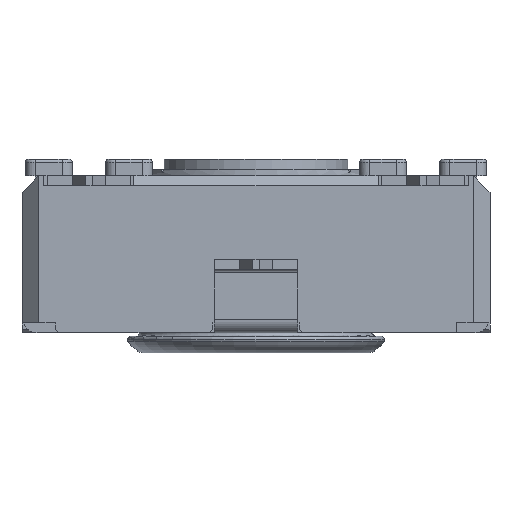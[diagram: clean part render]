
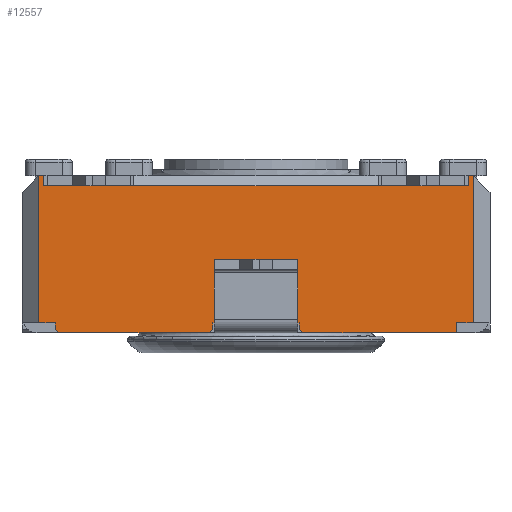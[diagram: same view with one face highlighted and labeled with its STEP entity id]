
A CAD part, front view. The second image highlights one B-rep face of the part: STEP entity #12557.
In plain terms, the highlighted planar face has unit normal (0, -1, 0).
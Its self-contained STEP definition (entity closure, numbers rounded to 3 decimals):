
#649=FACE_OUTER_BOUND('',#1319,.T.);
#1319=EDGE_LOOP('',(#8355,#8356,#8357,#8358,#8359,#8360,#8361,#8362,#8363,
#8364,#8365,#8366,#8367,#8368,#8369,#8370,#8371,#8372,#8373,#8374,#8375,
#8376,#8377,#8378,#8379,#8380,#8381));
#2007=LINE('',#17866,#3497);
#2020=LINE('',#17900,#3510);
#2025=LINE('',#17910,#3515);
#2103=LINE('',#18069,#3593);
#2128=LINE('',#18120,#3618);
#2154=LINE('',#18184,#3644);
#2155=LINE('',#18186,#3645);
#2156=LINE('',#18188,#3646);
#2157=LINE('',#18189,#3647);
#2158=LINE('',#18191,#3648);
#2159=LINE('',#18193,#3649);
#2160=LINE('',#18195,#3650);
#2161=LINE('',#18197,#3651);
#2162=LINE('',#18198,#3652);
#2163=LINE('',#18200,#3653);
#2164=LINE('',#18202,#3654);
#2165=LINE('',#18204,#3655);
#2166=LINE('',#18206,#3656);
#2167=LINE('',#18208,#3657);
#2168=LINE('',#18210,#3658);
#2169=LINE('',#18212,#3659);
#2170=LINE('',#18214,#3660);
#2171=LINE('',#18216,#3661);
#2172=LINE('',#18217,#3662);
#2173=LINE('',#18219,#3663);
#2174=LINE('',#18221,#3664);
#2175=LINE('',#18222,#3665);
#3497=VECTOR('',#14337,10.);
#3510=VECTOR('',#14376,10.);
#3515=VECTOR('',#14381,10.);
#3593=VECTOR('',#14483,10.);
#3618=VECTOR('',#14524,10.);
#3644=VECTOR('',#14572,10.);
#3645=VECTOR('',#14573,10.);
#3646=VECTOR('',#14574,10.);
#3647=VECTOR('',#14575,10.);
#3648=VECTOR('',#14576,10.);
#3649=VECTOR('',#14577,10.);
#3650=VECTOR('',#14578,10.);
#3651=VECTOR('',#14579,10.);
#3652=VECTOR('',#14580,10.);
#3653=VECTOR('',#14581,10.);
#3654=VECTOR('',#14582,10.);
#3655=VECTOR('',#14583,10.);
#3656=VECTOR('',#14584,10.);
#3657=VECTOR('',#14585,10.);
#3658=VECTOR('',#14586,10.);
#3659=VECTOR('',#14587,10.);
#3660=VECTOR('',#14588,10.);
#3661=VECTOR('',#14589,10.);
#3662=VECTOR('',#14590,10.);
#3663=VECTOR('',#14591,10.);
#3664=VECTOR('',#14592,10.);
#3665=VECTOR('',#14593,10.);
#4975=VERTEX_POINT('',#17844);
#4983=VERTEX_POINT('',#17865);
#4991=VERTEX_POINT('',#17899);
#4995=VERTEX_POINT('',#17907);
#4996=VERTEX_POINT('',#17909);
#5064=VERTEX_POINT('',#18066);
#5065=VERTEX_POINT('',#18068);
#5082=VERTEX_POINT('',#18117);
#5083=VERTEX_POINT('',#18119);
#5110=VERTEX_POINT('',#18183);
#5111=VERTEX_POINT('',#18185);
#5112=VERTEX_POINT('',#18187);
#5113=VERTEX_POINT('',#18190);
#5114=VERTEX_POINT('',#18192);
#5115=VERTEX_POINT('',#18194);
#5116=VERTEX_POINT('',#18196);
#5117=VERTEX_POINT('',#18199);
#5118=VERTEX_POINT('',#18201);
#5119=VERTEX_POINT('',#18203);
#5120=VERTEX_POINT('',#18205);
#5121=VERTEX_POINT('',#18207);
#5122=VERTEX_POINT('',#18209);
#5123=VERTEX_POINT('',#18211);
#5124=VERTEX_POINT('',#18213);
#5125=VERTEX_POINT('',#18215);
#5126=VERTEX_POINT('',#18218);
#5127=VERTEX_POINT('',#18220);
#6213=EDGE_CURVE('',#4975,#4983,#2007,.T.);
#6230=EDGE_CURVE('',#4991,#4975,#2020,.T.);
#6235=EDGE_CURVE('',#4996,#4995,#2025,.T.);
#6314=EDGE_CURVE('',#5065,#5064,#2103,.T.);
#6339=EDGE_CURVE('',#5083,#5082,#2128,.T.);
#6371=EDGE_CURVE('',#5064,#5110,#2154,.T.);
#6372=EDGE_CURVE('',#5110,#5111,#2155,.T.);
#6373=EDGE_CURVE('',#5111,#5112,#2156,.T.);
#6374=EDGE_CURVE('',#4996,#5112,#2157,.T.);
#6375=EDGE_CURVE('',#4995,#5113,#2158,.T.);
#6376=EDGE_CURVE('',#5114,#5113,#2159,.T.);
#6377=EDGE_CURVE('',#5114,#5115,#2160,.T.);
#6378=EDGE_CURVE('',#5116,#5115,#2161,.T.);
#6379=EDGE_CURVE('',#4991,#5116,#2162,.T.);
#6380=EDGE_CURVE('',#4983,#5117,#2163,.T.);
#6381=EDGE_CURVE('',#5117,#5118,#2164,.T.);
#6382=EDGE_CURVE('',#5119,#5118,#2165,.T.);
#6383=EDGE_CURVE('',#5119,#5120,#2166,.T.);
#6384=EDGE_CURVE('',#5120,#5121,#2167,.T.);
#6385=EDGE_CURVE('',#5121,#5122,#2168,.T.);
#6386=EDGE_CURVE('',#5123,#5122,#2169,.T.);
#6387=EDGE_CURVE('',#5123,#5124,#2170,.T.);
#6388=EDGE_CURVE('',#5124,#5125,#2171,.T.);
#6389=EDGE_CURVE('',#5125,#5083,#2172,.T.);
#6390=EDGE_CURVE('',#5082,#5126,#2173,.T.);
#6391=EDGE_CURVE('',#5127,#5126,#2174,.T.);
#6392=EDGE_CURVE('',#5127,#5065,#2175,.T.);
#8355=ORIENTED_EDGE('',*,*,#6314,.T.);
#8356=ORIENTED_EDGE('',*,*,#6371,.T.);
#8357=ORIENTED_EDGE('',*,*,#6372,.T.);
#8358=ORIENTED_EDGE('',*,*,#6373,.T.);
#8359=ORIENTED_EDGE('',*,*,#6374,.F.);
#8360=ORIENTED_EDGE('',*,*,#6235,.T.);
#8361=ORIENTED_EDGE('',*,*,#6375,.T.);
#8362=ORIENTED_EDGE('',*,*,#6376,.F.);
#8363=ORIENTED_EDGE('',*,*,#6377,.T.);
#8364=ORIENTED_EDGE('',*,*,#6378,.F.);
#8365=ORIENTED_EDGE('',*,*,#6379,.F.);
#8366=ORIENTED_EDGE('',*,*,#6230,.T.);
#8367=ORIENTED_EDGE('',*,*,#6213,.T.);
#8368=ORIENTED_EDGE('',*,*,#6380,.T.);
#8369=ORIENTED_EDGE('',*,*,#6381,.T.);
#8370=ORIENTED_EDGE('',*,*,#6382,.F.);
#8371=ORIENTED_EDGE('',*,*,#6383,.T.);
#8372=ORIENTED_EDGE('',*,*,#6384,.T.);
#8373=ORIENTED_EDGE('',*,*,#6385,.T.);
#8374=ORIENTED_EDGE('',*,*,#6386,.F.);
#8375=ORIENTED_EDGE('',*,*,#6387,.T.);
#8376=ORIENTED_EDGE('',*,*,#6388,.T.);
#8377=ORIENTED_EDGE('',*,*,#6389,.T.);
#8378=ORIENTED_EDGE('',*,*,#6339,.T.);
#8379=ORIENTED_EDGE('',*,*,#6390,.T.);
#8380=ORIENTED_EDGE('',*,*,#6391,.F.);
#8381=ORIENTED_EDGE('',*,*,#6392,.T.);
#11839=PLANE('',#13275);
#12557=ADVANCED_FACE('',(#649),#11839,.T.);
#13275=AXIS2_PLACEMENT_3D('',#18182,#14570,#14571);
#14337=DIRECTION('',(1.,0.,0.));
#14376=DIRECTION('',(1.,0.,0.));
#14381=DIRECTION('',(1.,0.,0.));
#14483=DIRECTION('',(-1.,0.,0.));
#14524=DIRECTION('',(-1.,0.,0.));
#14570=DIRECTION('center_axis',(0.,-1.,0.));
#14571=DIRECTION('ref_axis',(0.,0.,-1.));
#14572=DIRECTION('',(-1.,0.,0.));
#14573=DIRECTION('',(0.,0.,1.));
#14574=DIRECTION('',(-1.,0.,0.));
#14575=DIRECTION('',(0.,0.,1.));
#14576=DIRECTION('',(0.,0.,-1.));
#14577=DIRECTION('',(-0.707,0.,0.707));
#14578=DIRECTION('',(1.,0.,0.));
#14579=DIRECTION('',(-0.707,0.,-0.707));
#14580=DIRECTION('',(0.,0.,-1.));
#14581=DIRECTION('',(1.,0.,0.));
#14582=DIRECTION('',(0.,0.,-1.));
#14583=DIRECTION('',(-0.707,0.,0.707));
#14584=DIRECTION('',(1.,0.,0.));
#14585=DIRECTION('',(0.,0.,1.));
#14586=DIRECTION('',(1.,0.,0.));
#14587=DIRECTION('',(0.,0.,-1.));
#14588=DIRECTION('',(-1.,0.,0.));
#14589=DIRECTION('',(0.,0.,-1.));
#14590=DIRECTION('',(-1.,0.,0.));
#14591=DIRECTION('',(-1.,0.,0.));
#14592=DIRECTION('',(1.,0.,0.));
#14593=DIRECTION('',(-1.,0.,0.));
#17844=CARTESIAN_POINT('',(-8.717,-9.898,0.));
#17865=CARTESIAN_POINT('',(-6.217,-9.898,0.));
#17866=CARTESIAN_POINT('',(-14.467,-9.898,0.));
#17899=CARTESIAN_POINT('',(-8.767,-9.898,0.));
#17900=CARTESIAN_POINT('',(-14.467,-9.898,0.));
#17907=CARTESIAN_POINT('',(-13.467,-9.898,0.));
#17909=CARTESIAN_POINT('',(-13.967,-9.898,0.));
#17910=CARTESIAN_POINT('',(-7.245,-9.898,0.));
#18066=CARTESIAN_POINT('',(-13.717,-9.898,4.1));
#18068=CARTESIAN_POINT('',(-11.217,-9.898,4.1));
#18069=CARTESIAN_POINT('',(-6.467,-9.898,4.1));
#18117=CARTESIAN_POINT('',(-3.717,-9.898,4.1));
#18119=CARTESIAN_POINT('',(-1.217,-9.898,4.1));
#18120=CARTESIAN_POINT('',(-1.467,-9.898,4.1));
#18182=CARTESIAN_POINT('Origin',(-0.467,-9.898,0.));
#18183=CARTESIAN_POINT('',(-13.817,-9.898,4.1));
#18184=CARTESIAN_POINT('',(-3.944,-9.898,4.1));
#18185=CARTESIAN_POINT('',(-13.817,-9.898,4.4));
#18186=CARTESIAN_POINT('',(-13.817,-9.898,2.2));
#18187=CARTESIAN_POINT('',(-13.967,-9.898,4.4));
#18188=CARTESIAN_POINT('',(-14.467,-9.898,4.4));
#18189=CARTESIAN_POINT('',(-13.967,-9.898,0.));
#18190=CARTESIAN_POINT('',(-13.467,-9.898,-0.2));
#18191=CARTESIAN_POINT('',(-13.467,-9.898,-0.15));
#18192=CARTESIAN_POINT('',(-13.367,-9.898,-0.3));
#18193=CARTESIAN_POINT('',(-10.242,-9.898,-3.425));
#18194=CARTESIAN_POINT('',(-8.867,-9.898,-0.3));
#18195=CARTESIAN_POINT('',(-0.467,-9.898,-0.3));
#18196=CARTESIAN_POINT('',(-8.767,-9.898,-0.2));
#18197=CARTESIAN_POINT('',(-6.667,-9.898,1.9));
#18198=CARTESIAN_POINT('',(-8.767,-9.898,0.));
#18199=CARTESIAN_POINT('',(-6.167,-9.898,0.));
#18200=CARTESIAN_POINT('',(-14.467,-9.898,0.));
#18201=CARTESIAN_POINT('',(-6.167,-9.898,-0.2));
#18202=CARTESIAN_POINT('',(-6.167,-9.898,0.));
#18203=CARTESIAN_POINT('',(-6.067,-9.898,-0.3));
#18204=CARTESIAN_POINT('',(-4.767,-9.898,-1.6));
#18205=CARTESIAN_POINT('',(-1.467,-9.898,-0.3));
#18206=CARTESIAN_POINT('',(-0.467,-9.898,-0.3));
#18207=CARTESIAN_POINT('',(-1.467,-9.898,0.));
#18208=CARTESIAN_POINT('',(-1.467,-9.898,-0.15));
#18209=CARTESIAN_POINT('',(-0.967,-9.898,0.));
#18210=CARTESIAN_POINT('',(-0.646,-9.898,0.));
#18211=CARTESIAN_POINT('',(-0.967,-9.898,4.4));
#18212=CARTESIAN_POINT('',(-0.967,-9.898,0.));
#18213=CARTESIAN_POINT('',(-1.117,-9.898,4.4));
#18214=CARTESIAN_POINT('',(-14.467,-9.898,4.4));
#18215=CARTESIAN_POINT('',(-1.117,-9.898,4.1));
#18216=CARTESIAN_POINT('',(-1.117,-9.898,2.2));
#18217=CARTESIAN_POINT('',(-1.862,-9.898,4.1));
#18218=CARTESIAN_POINT('',(-3.817,-9.898,4.1));
#18219=CARTESIAN_POINT('',(-1.862,-9.898,4.1));
#18220=CARTESIAN_POINT('',(-11.117,-9.898,4.1));
#18221=CARTESIAN_POINT('',(-3.967,-9.898,4.1));
#18222=CARTESIAN_POINT('',(-3.944,-9.898,4.1));
